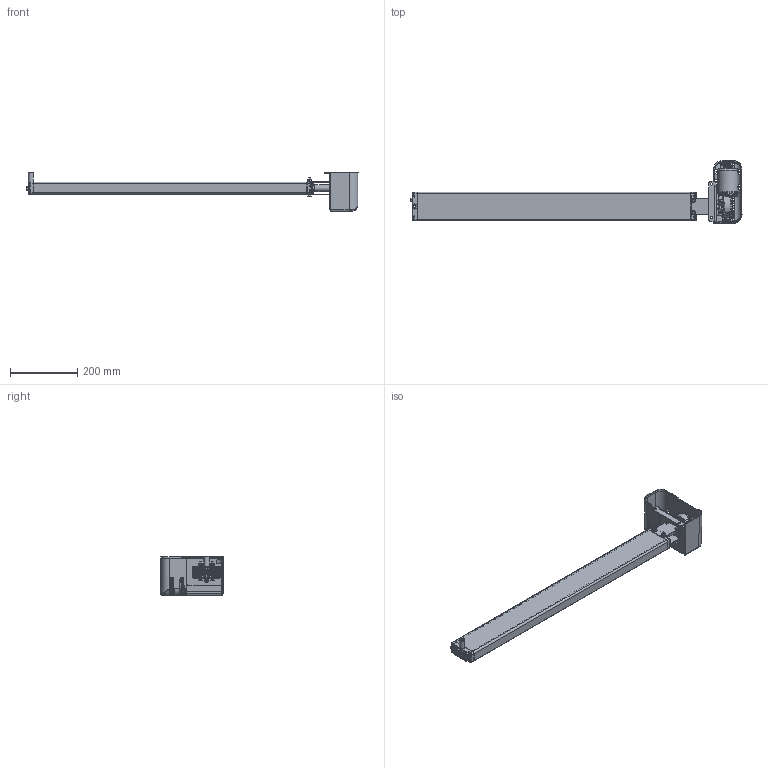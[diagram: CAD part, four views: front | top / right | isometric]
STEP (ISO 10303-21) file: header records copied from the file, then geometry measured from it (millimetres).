
FILE_DESCRIPTION(/* description */ ('Unknown'),/* implementation_level */ '2;1');
FILE_NAME(/* name */ '3X0.20026 Pumpe PA 1860 W mit Antrieb',/* time_stamp */ '2016-08-10T16:09:57+02:00',/* author */ ('Unknown'),/* organization */ ('Unknown'),/* preprocessor_version */ 'ST-DEVELOPER v16.7',/* originating_system */ 'DEX',/* authorisation */ $);
FILE_SCHEMA (('AUTOMOTIVE_DESIGN {1 0 10303 214 3 1 1}'));
Products named in the file (30): 100.20026; 115.00036; 125.00045; 115.00008; 142.00021; 125.00021; 142.00013; 125.00146; 122.00040; 126.00002; 119.00026; 126.00001; 127.00202; 127.00200; 127.00029; 124.00090; Getriebe; Ring; Schraube; Stator; Abdeckplatte; Antriebswelle; 128.00051; 123.00030; 142.00018; 142.00019; 142.00036; 142.00131; 123.00029; 142.00057
Assembly tree (42 placements, depth 3):
  100.20026
    115.00036
      125.00045
      115.00008
      142.00021
      125.00021
    142.00013  x8
    125.00146
    122.00040
    126.00002
    119.00026
    126.00001
    127.00202
      127.00200
      127.00029
    124.00090
      Getriebe
      Ring
      Schraube
      Stator
      Abdeckplatte
      Antriebswelle
    128.00051
    123.00030
    142.00018  x2
    142.00019  x2
    142.00036  x2
    142.00131  x3
    123.00029
    142.00057
    125.00045
Bounding box: 985.42 x 186.04 x 115.45 mm (x, y, z)
Volume: 1236377.1 mm3; surface area: 717450.2 mm2
Topology: 38 solids, 38 shells, 4126 faces, 10433 edges, 6326 vertices
Faces by surface type: plane 1160, bspline 1140, cylinder 1129, cone 417, torus 195, sphere 85
Full cylindrical faces by diameter (mm): 2.5 x4, 3.2 x4, 3.5 x2, 3.9 x5, 4.1 x1, 4.2 x4, 4.4 x5, 4.5 x1, 4.917 x2, 5 x8, 5.5 x5, 6 x6, 6.4 x2, 6.8 x9, 6.917 x4, 7 x1, 8 x4, 8.5 x2, 9 x2, 9.5 x1, 9.8 x8, 10 x8, 10.3 x1, 10.32 x1, 10.4 x1, 11 x5, 14 x2, 14.4 x2, 15 x1, 17 x1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
Entity records: 169163 total; most frequent: CARTESIAN_POINT 89287, ORIENTED_EDGE 16600, DIRECTION 12162, EDGE_CURVE 8300, VERTEX_POINT 5374, AXIS2_PLACEMENT_3D 4821, FACE_BOUND 4048, EDGE_LOOP 4044
